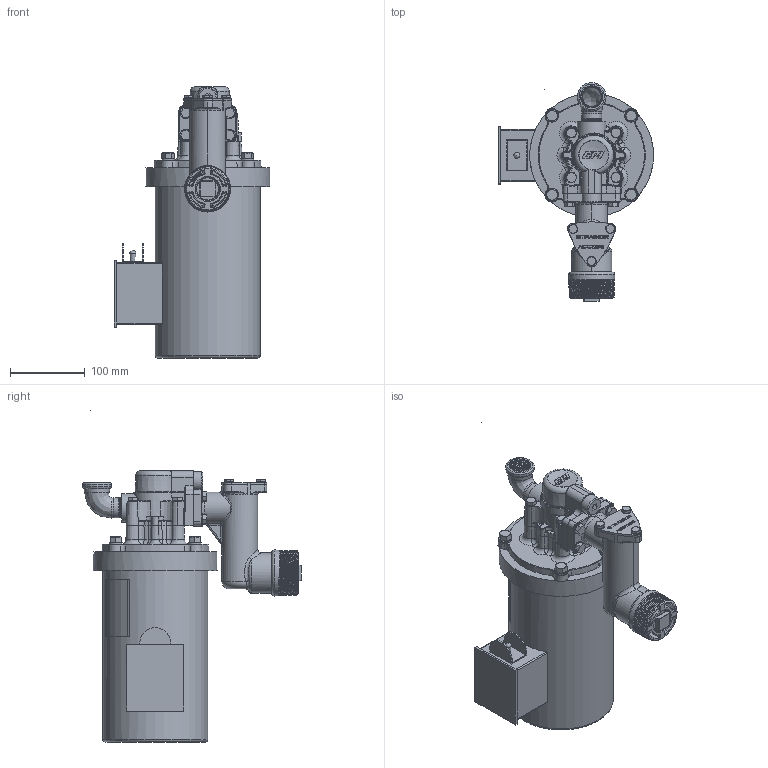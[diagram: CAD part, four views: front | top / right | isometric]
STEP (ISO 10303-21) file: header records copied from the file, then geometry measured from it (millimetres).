
FILE_DESCRIPTION(/* description */ (''),/* implementation_level */ '2;1');
FILE_NAME(/* name */ 'C:\Vault Projects\GPI Eng\New Projects\DHarris\Website model updates\STEP\L5016.stp',/* time_stamp */ '2022-07-18T15:11:02-05:00',/* author */ ('gdanhar'),/* organization */ (''),/* preprocessor_version */ 'ST-DEVELOPER v18.1',/* originating_system */ 'Autodesk Inventor 2022',/* authorisation */ '');
FILE_SCHEMA (('AUTOMOTIVE_DESIGN { 1 0 10303 214 3 1 1 }'));
Products named in the file (1): L5016
Bounding box: 206.88 x 291.7 x 442.73 mm (x, y, z)
Volume: 5515080.9 mm3; surface area: 328519.2 mm2
Topology: 2 solids, 9 shells, 1723 faces, 4368 edges, 2671 vertices
Faces by surface type: plane 707, bspline 419, cone 193, cylinder 192, torus 152, sphere 60
Full cylindrical faces by diameter (mm): 0.001 x1, 4.978 x3, 6.35 x3, 7.938 x4, 9.512 x4, 9.525 x4, 11.125 x3, 11.989 x3, 12.7 x4, 15.494 x4, 15.875 x1, 18.847 x1, 25.4 x1, 26.67 x2, 28.702 x1, 38.1 x2, 114.3 x1, 139.7 x1, 165.1 x1
Entity records: 79787 total; most frequent: CARTESIAN_POINT 39904, ORIENTED_EDGE 8576, DIRECTION 6843, EDGE_CURVE 4288, VERTEX_POINT 2669, AXIS2_PLACEMENT_3D 2483, LINE 1877, VECTOR 1877
